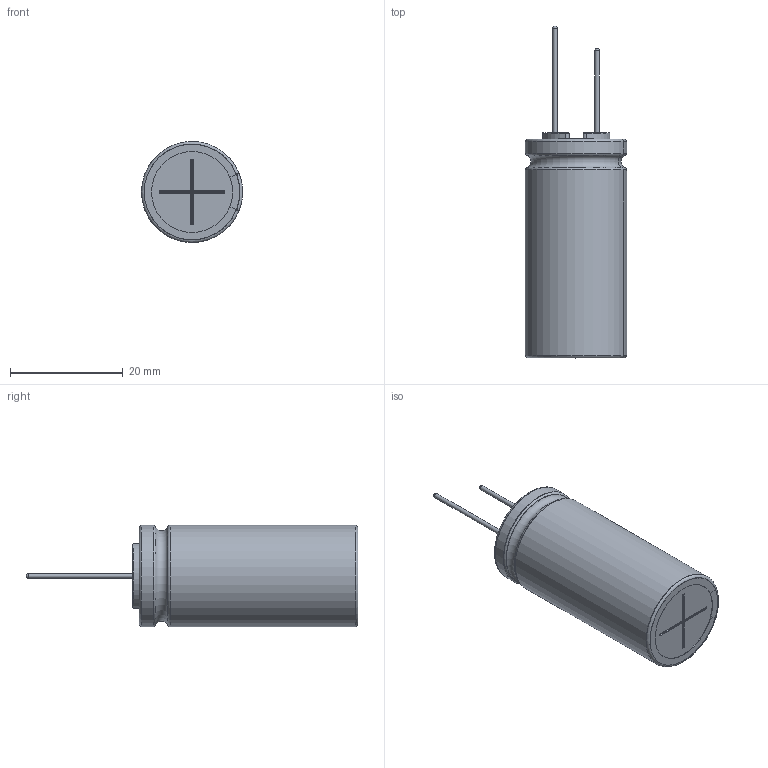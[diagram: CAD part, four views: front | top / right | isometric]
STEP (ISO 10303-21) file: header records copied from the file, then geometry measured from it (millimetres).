
FILE_DESCRIPTION(/* description */ (''),/* implementation_level */ '2;1');
FILE_NAME(/* name */ '18x40_Lead.stp',/* time_stamp */ '2017-09-05T14:59:50+09:00',/* author */ (''),/* organization */ (''),/* preprocessor_version */ 'ST-DEVELOPER v16',/* originating_system */ 'SIEMENS PLM Software NX 11.0',/* authorisation */ '');
FILE_SCHEMA (('AUTOMOTIVE_DESIGN { 1 0 10303 214 3 1 1 1 }'));
Length unit declared in the file: millimetre
Products named in the file (1): 18x40_Lead_0
Bounding box: 17.97 x 59 x 18 mm (x, y, z)
Volume: 9856.9 mm3; surface area: 7608.7 mm2
Topology: 3 solids, 3 shells, 132 faces, 328 edges, 205 vertices
Faces by surface type: cylinder 50, torus 35, plane 33, sphere 6, bspline 6, extrusion 2
Full cylindrical faces by diameter (mm): 0.8 x2, 17.8 x2
Entity records: 4908 total; most frequent: CARTESIAN_POINT 1353, DIRECTION 748, ORIENTED_EDGE 624, EDGE_CURVE 312, AXIS2_PLACEMENT_3D 311, VERTEX_POINT 200, CIRCLE 174, EDGE_LOOP 146
